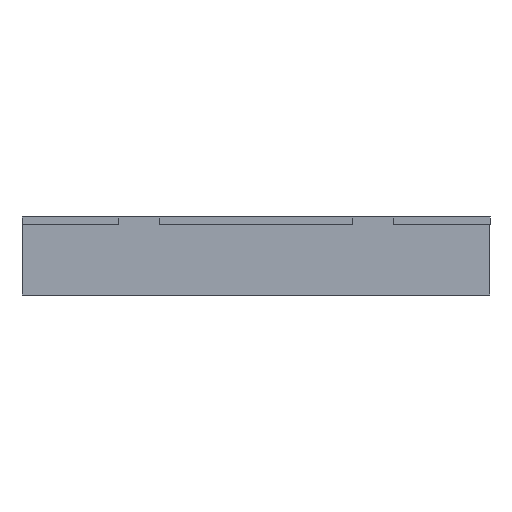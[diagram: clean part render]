
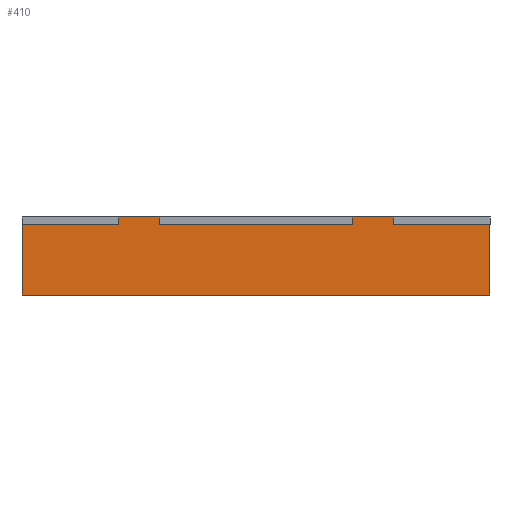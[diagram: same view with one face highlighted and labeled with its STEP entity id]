
A CAD part, left-side view. The second image highlights one B-rep face of the part: STEP entity #410.
In plain terms, the highlighted planar face has unit normal (-1, 0, 0).
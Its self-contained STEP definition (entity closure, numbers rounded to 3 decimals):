
#395 = VERTEX_POINT ( 'NONE', #1412 ) ;
#398 = VERTEX_POINT ( 'NONE', #1408 ) ;
#404 = VERTEX_POINT ( 'NONE', #1401 ) ;
#406 = EDGE_CURVE ( 'NONE', #415, #2303, #1392, .T. ) ;
#409 = EDGE_LOOP ( 'NONE', ( #412, #414, #413, #434, #411, #424, #438, #425, #450, #442, #433, #431 ) ) ;
#410 = ADVANCED_FACE ( 'NONE', ( #1387 ), #1406, .F. ) ;
#411 = ORIENTED_EDGE ( 'NONE', *, *, #652, .F. ) ;
#412 = ORIENTED_EDGE ( 'NONE', *, *, #2284, .F. ) ;
#413 = ORIENTED_EDGE ( 'NONE', *, *, #439, .T. ) ;
#414 = ORIENTED_EDGE ( 'NONE', *, *, #406, .F. ) ;
#415 = VERTEX_POINT ( 'NONE', #1388 ) ;
#416 = VERTEX_POINT ( 'NONE', #1440 ) ;
#421 = EDGE_CURVE ( 'NONE', #395, #398, #1434, .T. ) ;
#424 = ORIENTED_EDGE ( 'NONE', *, *, #441, .F. ) ;
#425 = ORIENTED_EDGE ( 'NONE', *, *, #421, .F. ) ;
#426 = EDGE_CURVE ( 'NONE', #440, #398, #1402, .T. ) ;
#431 = ORIENTED_EDGE ( 'NONE', *, *, #472, .T. ) ;
#433 = ORIENTED_EDGE ( 'NONE', *, *, #443, .T. ) ;
#434 = ORIENTED_EDGE ( 'NONE', *, *, #436, .T. ) ;
#436 = EDGE_CURVE ( 'NONE', #416, #556, #1427, .T. ) ;
#437 = VERTEX_POINT ( 'NONE', #1424 ) ;
#438 = ORIENTED_EDGE ( 'NONE', *, *, #426, .T. ) ;
#439 = EDGE_CURVE ( 'NONE', #415, #416, #1419, .T. ) ;
#440 = VERTEX_POINT ( 'NONE', #1423 ) ;
#441 = EDGE_CURVE ( 'NONE', #440, #597, #1473, .T. ) ;
#442 = ORIENTED_EDGE ( 'NONE', *, *, #453, .T. ) ;
#443 = EDGE_CURVE ( 'NONE', #451, #404, #1468, .T. ) ;
#450 = ORIENTED_EDGE ( 'NONE', *, *, #456, .T. ) ;
#451 = VERTEX_POINT ( 'NONE', #1420 ) ;
#453 = EDGE_CURVE ( 'NONE', #437, #451, #1465, .T. ) ;
#456 = EDGE_CURVE ( 'NONE', #395, #437, #1449, .T. ) ;
#472 = EDGE_CURVE ( 'NONE', #404, #2298, #1482, .T. ) ;
#556 = VERTEX_POINT ( 'NONE', #1656 ) ;
#597 = VERTEX_POINT ( 'NONE', #1751 ) ;
#652 = EDGE_CURVE ( 'NONE', #597, #556, #1876, .T. ) ;
#1368 = VECTOR ( 'NONE', #1425, 1000. ) ;
#1386 = AXIS2_PLACEMENT_3D ( 'NONE', #1443, #1442, #1441 ) ;
#1387 = FACE_OUTER_BOUND ( 'NONE', #409, .T. ) ;
#1388 = CARTESIAN_POINT ( 'NONE',  ( 0., 26.5, -1.5 ) ) ;
#1389 = DIRECTION ( 'NONE',  ( 0., 0., 1. ) ) ;
#1390 = VECTOR ( 'NONE', #1389, 1000. ) ;
#1391 = CARTESIAN_POINT ( 'NONE',  ( 0., 26.5, -1.5 ) ) ;
#1392 = LINE ( 'NONE', #1391, #1390 ) ;
#1401 = CARTESIAN_POINT ( 'NONE',  ( 0., 18.5, -1.5 ) ) ;
#1402 = LINE ( 'NONE', #1428, #1368 ) ;
#1406 = PLANE ( 'NONE',  #1386 ) ;
#1408 = CARTESIAN_POINT ( 'NONE',  ( 0., 90., -1.5 ) ) ;
#1412 = CARTESIAN_POINT ( 'NONE',  ( 0., 90., -15. ) ) ;
#1415 = DIRECTION ( 'NONE',  ( 0., 1., 0. ) ) ;
#1416 = VECTOR ( 'NONE', #1415, 1000. ) ;
#1417 = CARTESIAN_POINT ( 'NONE',  ( 0., 26.5, -1.5 ) ) ;
#1418 = CARTESIAN_POINT ( 'NONE',  ( 0., 0., -1.5 ) ) ;
#1419 = LINE ( 'NONE', #1417, #1416 ) ;
#1420 = CARTESIAN_POINT ( 'NONE',  ( 0., 0., -1.5 ) ) ;
#1421 = DIRECTION ( 'NONE',  ( 0., 0., 1. ) ) ;
#1422 = VECTOR ( 'NONE', #1421, 1000. ) ;
#1423 = CARTESIAN_POINT ( 'NONE',  ( 0., 71.5, -1.5 ) ) ;
#1424 = CARTESIAN_POINT ( 'NONE',  ( 0., 0., -15. ) ) ;
#1425 = DIRECTION ( 'NONE',  ( 0., 1., 0. ) ) ;
#1426 = CARTESIAN_POINT ( 'NONE',  ( 0., 63.5, -1.5 ) ) ;
#1427 = LINE ( 'NONE', #1426, #1422 ) ;
#1428 = CARTESIAN_POINT ( 'NONE',  ( 0., 71.5, -1.5 ) ) ;
#1432 = DIRECTION ( 'NONE',  ( 0., 0., 1. ) ) ;
#1433 = VECTOR ( 'NONE', #1432, 1000. ) ;
#1434 = LINE ( 'NONE', #1438, #1433 ) ;
#1438 = CARTESIAN_POINT ( 'NONE',  ( 0., 90., -15. ) ) ;
#1440 = CARTESIAN_POINT ( 'NONE',  ( 0., 63.5, -1.5 ) ) ;
#1441 = DIRECTION ( 'NONE',  ( 0., 1., 0. ) ) ;
#1442 = DIRECTION ( 'NONE',  ( 1., 0., 0. ) ) ;
#1443 = CARTESIAN_POINT ( 'NONE',  ( 0., 90., -15. ) ) ;
#1449 = LINE ( 'NONE', #1503, #1502 ) ;
#1451 = DIRECTION ( 'NONE',  ( 0., 0., 1. ) ) ;
#1452 = VECTOR ( 'NONE', #1451, 1000. ) ;
#1453 = CARTESIAN_POINT ( 'NONE',  ( 0., 0., -15. ) ) ;
#1465 = LINE ( 'NONE', #1453, #1452 ) ;
#1466 = DIRECTION ( 'NONE',  ( 0., 1., 0. ) ) ;
#1467 = VECTOR ( 'NONE', #1466, 1000. ) ;
#1468 = LINE ( 'NONE', #1418, #1467 ) ;
#1470 = DIRECTION ( 'NONE',  ( 0., 0., 1. ) ) ;
#1471 = VECTOR ( 'NONE', #1470, 1000. ) ;
#1472 = CARTESIAN_POINT ( 'NONE',  ( 0., 71.5, -1.5 ) ) ;
#1473 = LINE ( 'NONE', #1472, #1471 ) ;
#1480 = DIRECTION ( 'NONE',  ( 0., 0., 1. ) ) ;
#1481 = VECTOR ( 'NONE', #1480, 1000. ) ;
#1482 = LINE ( 'NONE', #1489, #1481 ) ;
#1489 = CARTESIAN_POINT ( 'NONE',  ( 0., 18.5, -1.5 ) ) ;
#1501 = DIRECTION ( 'NONE',  ( 0., -1., 0. ) ) ;
#1502 = VECTOR ( 'NONE', #1501, 1000. ) ;
#1503 = CARTESIAN_POINT ( 'NONE',  ( 0., 90., -15. ) ) ;
#1656 = CARTESIAN_POINT ( 'NONE',  ( 0., 63.5, 0. ) ) ;
#1751 = CARTESIAN_POINT ( 'NONE',  ( 0., 71.5, 0. ) ) ;
#1873 = DIRECTION ( 'NONE',  ( 0., -1., 0. ) ) ;
#1874 = VECTOR ( 'NONE', #1873, 1000. ) ;
#1875 = CARTESIAN_POINT ( 'NONE',  ( 0., 90., 0. ) ) ;
#1876 = LINE ( 'NONE', #1875, #1874 ) ;
#2093 = CARTESIAN_POINT ( 'NONE',  ( 0., 18.5, 0. ) ) ;
#2095 = CARTESIAN_POINT ( 'NONE',  ( 0., 26.5, 0. ) ) ;
#2108 = DIRECTION ( 'NONE',  ( 0., -1., 0. ) ) ;
#2109 = VECTOR ( 'NONE', #2108, 1000. ) ;
#2110 = CARTESIAN_POINT ( 'NONE',  ( 0., 90., 0. ) ) ;
#2111 = LINE ( 'NONE', #2110, #2109 ) ;
#2284 = EDGE_CURVE ( 'NONE', #2303, #2298, #2111, .T. ) ;
#2298 = VERTEX_POINT ( 'NONE', #2093 ) ;
#2303 = VERTEX_POINT ( 'NONE', #2095 ) ;
